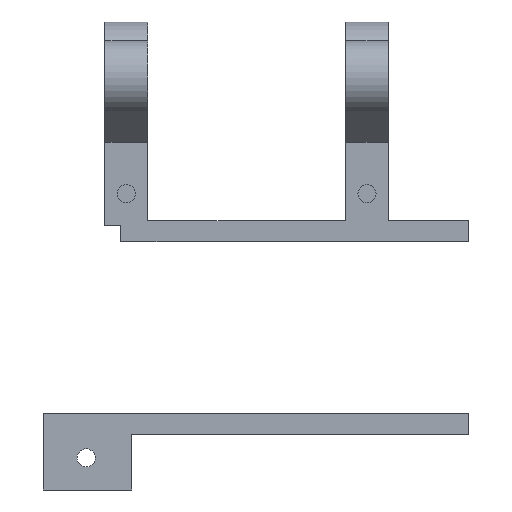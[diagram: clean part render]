
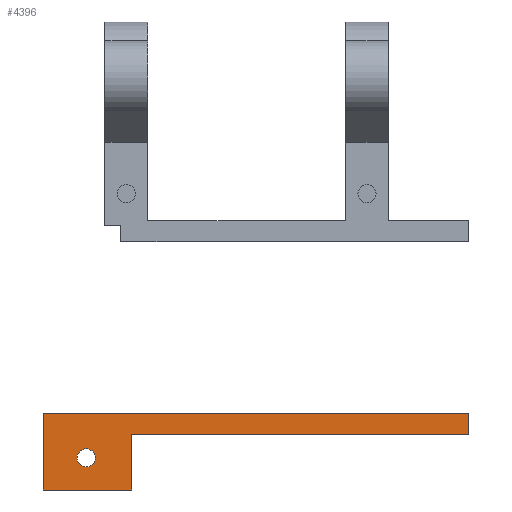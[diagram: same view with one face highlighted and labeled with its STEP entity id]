
A CAD part, left-side view. The second image highlights one B-rep face of the part: STEP entity #4396.
In plain terms, the highlighted planar face has unit normal (-1, 0, 0).
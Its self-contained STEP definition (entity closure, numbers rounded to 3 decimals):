
#4396 = ADVANCED_FACE('',(#4397,#4572),#4411,.F.);
#4397 = FACE_BOUND('',#4398,.F.);
#4398 = EDGE_LOOP('',(#4399,#4434,#4462,#4490,#4518,#4546));
#4399 = ORIENTED_EDGE('',*,*,#4400,.F.);
#4400 = EDGE_CURVE('',#4401,#4403,#4405,.T.);
#4401 = VERTEX_POINT('',#4402);
#4402 = CARTESIAN_POINT('',(51.,-7.3,-257.637));
#4403 = VERTEX_POINT('',#4404);
#4404 = CARTESIAN_POINT('',(51.,72.2,-257.637));
#4405 = SURFACE_CURVE('',#4406,(#4410,#4422),.PCURVE_S1.);
#4406 = LINE('',#4407,#4408);
#4407 = CARTESIAN_POINT('',(51.,-7.3,-257.637));
#4408 = VECTOR('',#4409,1.);
#4409 = DIRECTION('',(0.,1.,0.));
#4410 = PCURVE('',#4411,#4416);
#4411 = PLANE('',#4412);
#4412 = AXIS2_PLACEMENT_3D('',#4413,#4414,#4415);
#4413 = CARTESIAN_POINT('',(51.,-7.3,-261.637));
#4414 = DIRECTION('',(1.,0.,0.));
#4415 = DIRECTION('',(0.,0.,1.));
#4416 = DEFINITIONAL_REPRESENTATION('',(#4417),#4421);
#4417 = LINE('',#4418,#4419);
#4418 = CARTESIAN_POINT('',(4.,0.));
#4419 = VECTOR('',#4420,1.);
#4420 = DIRECTION('',(0.,-1.));
#4421 = ( GEOMETRIC_REPRESENTATION_CONTEXT(2) 
PARAMETRIC_REPRESENTATION_CONTEXT() REPRESENTATION_CONTEXT('2D SPACE',''
  ) );
#4422 = PCURVE('',#4423,#4428);
#4423 = PLANE('',#4424);
#4424 = AXIS2_PLACEMENT_3D('',#4425,#4426,#4427);
#4425 = CARTESIAN_POINT('',(51.,-7.3,-257.637));
#4426 = DIRECTION('',(0.,0.,1.));
#4427 = DIRECTION('',(1.,0.,0.));
#4428 = DEFINITIONAL_REPRESENTATION('',(#4429),#4433);
#4429 = LINE('',#4430,#4431);
#4430 = CARTESIAN_POINT('',(0.,0.));
#4431 = VECTOR('',#4432,1.);
#4432 = DIRECTION('',(0.,1.));
#4433 = ( GEOMETRIC_REPRESENTATION_CONTEXT(2) 
PARAMETRIC_REPRESENTATION_CONTEXT() REPRESENTATION_CONTEXT('2D SPACE',''
  ) );
#4434 = ORIENTED_EDGE('',*,*,#4435,.F.);
#4435 = EDGE_CURVE('',#4436,#4401,#4438,.T.);
#4436 = VERTEX_POINT('',#4437);
#4437 = CARTESIAN_POINT('',(51.,-7.3,-261.637));
#4438 = SURFACE_CURVE('',#4439,(#4443,#4450),.PCURVE_S1.);
#4439 = LINE('',#4440,#4441);
#4440 = CARTESIAN_POINT('',(51.,-7.3,-261.637));
#4441 = VECTOR('',#4442,1.);
#4442 = DIRECTION('',(0.,0.,1.));
#4443 = PCURVE('',#4411,#4444);
#4444 = DEFINITIONAL_REPRESENTATION('',(#4445),#4449);
#4445 = LINE('',#4446,#4447);
#4446 = CARTESIAN_POINT('',(0.,0.));
#4447 = VECTOR('',#4448,1.);
#4448 = DIRECTION('',(1.,0.));
#4449 = ( GEOMETRIC_REPRESENTATION_CONTEXT(2) 
PARAMETRIC_REPRESENTATION_CONTEXT() REPRESENTATION_CONTEXT('2D SPACE',''
  ) );
#4450 = PCURVE('',#4451,#4456);
#4451 = PLANE('',#4452);
#4452 = AXIS2_PLACEMENT_3D('',#4453,#4454,#4455);
#4453 = CARTESIAN_POINT('',(51.,-7.3,-261.637));
#4454 = DIRECTION('',(0.,1.,0.));
#4455 = DIRECTION('',(0.,0.,1.));
#4456 = DEFINITIONAL_REPRESENTATION('',(#4457),#4461);
#4457 = LINE('',#4458,#4459);
#4458 = CARTESIAN_POINT('',(0.,0.));
#4459 = VECTOR('',#4460,1.);
#4460 = DIRECTION('',(1.,0.));
#4461 = ( GEOMETRIC_REPRESENTATION_CONTEXT(2) 
PARAMETRIC_REPRESENTATION_CONTEXT() REPRESENTATION_CONTEXT('2D SPACE',''
  ) );
#4462 = ORIENTED_EDGE('',*,*,#4463,.T.);
#4463 = EDGE_CURVE('',#4436,#4464,#4466,.T.);
#4464 = VERTEX_POINT('',#4465);
#4465 = CARTESIAN_POINT('',(51.,55.7,-261.637));
#4466 = SURFACE_CURVE('',#4467,(#4471,#4478),.PCURVE_S1.);
#4467 = LINE('',#4468,#4469);
#4468 = CARTESIAN_POINT('',(51.,-7.3,-261.637));
#4469 = VECTOR('',#4470,1.);
#4470 = DIRECTION('',(0.,1.,0.));
#4471 = PCURVE('',#4411,#4472);
#4472 = DEFINITIONAL_REPRESENTATION('',(#4473),#4477);
#4473 = LINE('',#4474,#4475);
#4474 = CARTESIAN_POINT('',(0.,0.));
#4475 = VECTOR('',#4476,1.);
#4476 = DIRECTION('',(0.,-1.));
#4477 = ( GEOMETRIC_REPRESENTATION_CONTEXT(2) 
PARAMETRIC_REPRESENTATION_CONTEXT() REPRESENTATION_CONTEXT('2D SPACE',''
  ) );
#4478 = PCURVE('',#4479,#4484);
#4479 = PLANE('',#4480);
#4480 = AXIS2_PLACEMENT_3D('',#4481,#4482,#4483);
#4481 = CARTESIAN_POINT('',(51.,-7.3,-261.637));
#4482 = DIRECTION('',(0.,0.,1.));
#4483 = DIRECTION('',(1.,0.,0.));
#4484 = DEFINITIONAL_REPRESENTATION('',(#4485),#4489);
#4485 = LINE('',#4486,#4487);
#4486 = CARTESIAN_POINT('',(0.,0.));
#4487 = VECTOR('',#4488,1.);
#4488 = DIRECTION('',(0.,1.));
#4489 = ( GEOMETRIC_REPRESENTATION_CONTEXT(2) 
PARAMETRIC_REPRESENTATION_CONTEXT() REPRESENTATION_CONTEXT('2D SPACE',''
  ) );
#4490 = ORIENTED_EDGE('',*,*,#4491,.F.);
#4491 = EDGE_CURVE('',#4492,#4464,#4494,.T.);
#4492 = VERTEX_POINT('',#4493);
#4493 = CARTESIAN_POINT('',(51.,55.7,-272.));
#4494 = SURFACE_CURVE('',#4495,(#4499,#4506),.PCURVE_S1.);
#4495 = LINE('',#4496,#4497);
#4496 = CARTESIAN_POINT('',(51.,55.7,-272.));
#4497 = VECTOR('',#4498,1.);
#4498 = DIRECTION('',(0.,0.,1.));
#4499 = PCURVE('',#4411,#4500);
#4500 = DEFINITIONAL_REPRESENTATION('',(#4501),#4505);
#4501 = LINE('',#4502,#4503);
#4502 = CARTESIAN_POINT('',(-10.363,-63.));
#4503 = VECTOR('',#4504,1.);
#4504 = DIRECTION('',(1.,0.));
#4505 = ( GEOMETRIC_REPRESENTATION_CONTEXT(2) 
PARAMETRIC_REPRESENTATION_CONTEXT() REPRESENTATION_CONTEXT('2D SPACE',''
  ) );
#4506 = PCURVE('',#4507,#4512);
#4507 = PLANE('',#4508);
#4508 = AXIS2_PLACEMENT_3D('',#4509,#4510,#4511);
#4509 = CARTESIAN_POINT('',(51.,55.7,-272.));
#4510 = DIRECTION('',(0.,1.,0.));
#4511 = DIRECTION('',(0.,0.,1.));
#4512 = DEFINITIONAL_REPRESENTATION('',(#4513),#4517);
#4513 = LINE('',#4514,#4515);
#4514 = CARTESIAN_POINT('',(0.,0.));
#4515 = VECTOR('',#4516,1.);
#4516 = DIRECTION('',(1.,0.));
#4517 = ( GEOMETRIC_REPRESENTATION_CONTEXT(2) 
PARAMETRIC_REPRESENTATION_CONTEXT() REPRESENTATION_CONTEXT('2D SPACE',''
  ) );
#4518 = ORIENTED_EDGE('',*,*,#4519,.T.);
#4519 = EDGE_CURVE('',#4492,#4520,#4522,.T.);
#4520 = VERTEX_POINT('',#4521);
#4521 = CARTESIAN_POINT('',(51.,72.2,-272.));
#4522 = SURFACE_CURVE('',#4523,(#4527,#4534),.PCURVE_S1.);
#4523 = LINE('',#4524,#4525);
#4524 = CARTESIAN_POINT('',(51.,55.7,-272.));
#4525 = VECTOR('',#4526,1.);
#4526 = DIRECTION('',(0.,1.,0.));
#4527 = PCURVE('',#4411,#4528);
#4528 = DEFINITIONAL_REPRESENTATION('',(#4529),#4533);
#4529 = LINE('',#4530,#4531);
#4530 = CARTESIAN_POINT('',(-10.363,-63.));
#4531 = VECTOR('',#4532,1.);
#4532 = DIRECTION('',(0.,-1.));
#4533 = ( GEOMETRIC_REPRESENTATION_CONTEXT(2) 
PARAMETRIC_REPRESENTATION_CONTEXT() REPRESENTATION_CONTEXT('2D SPACE',''
  ) );
#4534 = PCURVE('',#4535,#4540);
#4535 = PLANE('',#4536);
#4536 = AXIS2_PLACEMENT_3D('',#4537,#4538,#4539);
#4537 = CARTESIAN_POINT('',(51.,55.7,-272.));
#4538 = DIRECTION('',(0.,0.,1.));
#4539 = DIRECTION('',(1.,0.,0.));
#4540 = DEFINITIONAL_REPRESENTATION('',(#4541),#4545);
#4541 = LINE('',#4542,#4543);
#4542 = CARTESIAN_POINT('',(0.,0.));
#4543 = VECTOR('',#4544,1.);
#4544 = DIRECTION('',(0.,1.));
#4545 = ( GEOMETRIC_REPRESENTATION_CONTEXT(2) 
PARAMETRIC_REPRESENTATION_CONTEXT() REPRESENTATION_CONTEXT('2D SPACE',''
  ) );
#4546 = ORIENTED_EDGE('',*,*,#4547,.T.);
#4547 = EDGE_CURVE('',#4520,#4403,#4548,.T.);
#4548 = SURFACE_CURVE('',#4549,(#4553,#4560),.PCURVE_S1.);
#4549 = LINE('',#4550,#4551);
#4550 = CARTESIAN_POINT('',(51.,72.2,-272.));
#4551 = VECTOR('',#4552,1.);
#4552 = DIRECTION('',(0.,0.,1.));
#4553 = PCURVE('',#4411,#4554);
#4554 = DEFINITIONAL_REPRESENTATION('',(#4555),#4559);
#4555 = LINE('',#4556,#4557);
#4556 = CARTESIAN_POINT('',(-10.363,-79.5));
#4557 = VECTOR('',#4558,1.);
#4558 = DIRECTION('',(1.,0.));
#4559 = ( GEOMETRIC_REPRESENTATION_CONTEXT(2) 
PARAMETRIC_REPRESENTATION_CONTEXT() REPRESENTATION_CONTEXT('2D SPACE',''
  ) );
#4560 = PCURVE('',#4561,#4566);
#4561 = PLANE('',#4562);
#4562 = AXIS2_PLACEMENT_3D('',#4563,#4564,#4565);
#4563 = CARTESIAN_POINT('',(51.,72.2,-272.));
#4564 = DIRECTION('',(0.,1.,0.));
#4565 = DIRECTION('',(0.,0.,1.));
#4566 = DEFINITIONAL_REPRESENTATION('',(#4567),#4571);
#4567 = LINE('',#4568,#4569);
#4568 = CARTESIAN_POINT('',(0.,0.));
#4569 = VECTOR('',#4570,1.);
#4570 = DIRECTION('',(1.,0.));
#4571 = ( GEOMETRIC_REPRESENTATION_CONTEXT(2) 
PARAMETRIC_REPRESENTATION_CONTEXT() REPRESENTATION_CONTEXT('2D SPACE',''
  ) );
#4572 = FACE_BOUND('',#4573,.F.);
#4573 = EDGE_LOOP('',(#4574));
#4574 = ORIENTED_EDGE('',*,*,#4575,.T.);
#4575 = EDGE_CURVE('',#4576,#4576,#4578,.T.);
#4576 = VERTEX_POINT('',#4577);
#4577 = CARTESIAN_POINT('',(51.,62.5,-266.));
#4578 = SURFACE_CURVE('',#4579,(#4584,#4595),.PCURVE_S1.);
#4579 = CIRCLE('',#4580,1.7);
#4580 = AXIS2_PLACEMENT_3D('',#4581,#4582,#4583);
#4581 = CARTESIAN_POINT('',(51.,64.2,-266.));
#4582 = DIRECTION('',(-1.,-0.,0.));
#4583 = DIRECTION('',(0.,-1.,0.));
#4584 = PCURVE('',#4411,#4585);
#4585 = DEFINITIONAL_REPRESENTATION('',(#4586),#4594);
#4586 = ( BOUNDED_CURVE() B_SPLINE_CURVE(2,(#4587,#4588,#4589,#4590,
#4591,#4592,#4593),.UNSPECIFIED.,.T.,.F.) B_SPLINE_CURVE_WITH_KNOTS((1,2
    ,2,2,2,1),(-2.094,0.,2.094,4.189,
6.283,8.378),.UNSPECIFIED.) CURVE() 
GEOMETRIC_REPRESENTATION_ITEM() RATIONAL_B_SPLINE_CURVE((1.,0.5,1.,0.5,
1.,0.5,1.)) REPRESENTATION_ITEM('') );
#4587 = CARTESIAN_POINT('',(-4.363,-69.8));
#4588 = CARTESIAN_POINT('',(-1.419,-69.8));
#4589 = CARTESIAN_POINT('',(-2.891,-72.35));
#4590 = CARTESIAN_POINT('',(-4.363,-74.9));
#4591 = CARTESIAN_POINT('',(-5.836,-72.35));
#4592 = CARTESIAN_POINT('',(-7.308,-69.8));
#4593 = CARTESIAN_POINT('',(-4.363,-69.8));
#4594 = ( GEOMETRIC_REPRESENTATION_CONTEXT(2) 
PARAMETRIC_REPRESENTATION_CONTEXT() REPRESENTATION_CONTEXT('2D SPACE',''
  ) );
#4595 = PCURVE('',#4596,#4601);
#4596 = CYLINDRICAL_SURFACE('',#4597,1.7);
#4597 = AXIS2_PLACEMENT_3D('',#4598,#4599,#4600);
#4598 = CARTESIAN_POINT('',(0.,64.2,-266.));
#4599 = DIRECTION('',(-1.,-0.,-0.));
#4600 = DIRECTION('',(0.,-1.,0.));
#4601 = DEFINITIONAL_REPRESENTATION('',(#4602),#4606);
#4602 = LINE('',#4603,#4604);
#4603 = CARTESIAN_POINT('',(-6.283,-51.));
#4604 = VECTOR('',#4605,1.);
#4605 = DIRECTION('',(1.,-0.));
#4606 = ( GEOMETRIC_REPRESENTATION_CONTEXT(2) 
PARAMETRIC_REPRESENTATION_CONTEXT() REPRESENTATION_CONTEXT('2D SPACE',''
  ) );
